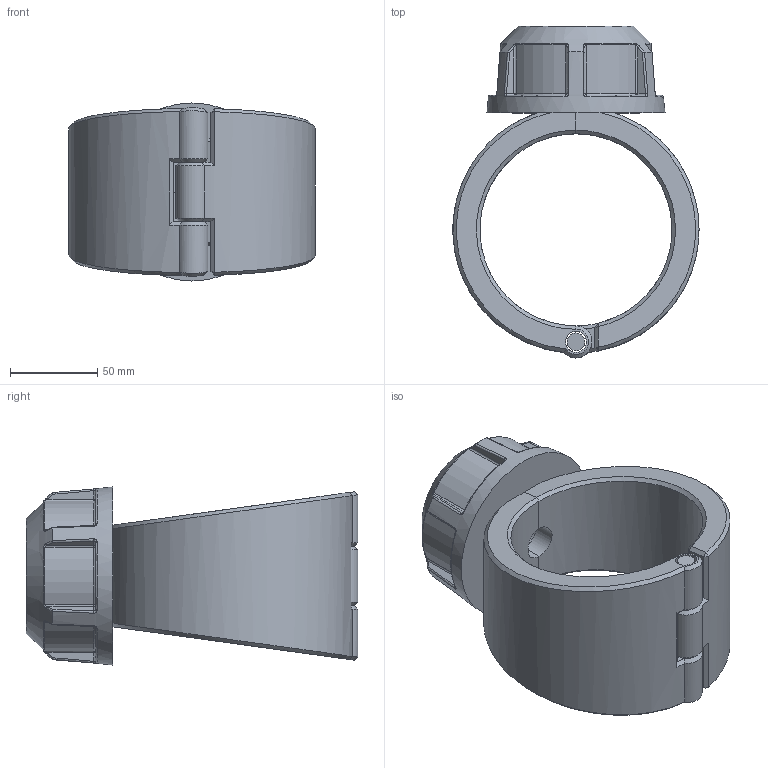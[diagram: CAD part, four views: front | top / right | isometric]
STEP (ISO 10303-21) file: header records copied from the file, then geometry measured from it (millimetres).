
FILE_DESCRIPTION(/* description */ ('Plassadle Threaded 110x1 1/4'''''),/* implementation_level */ '2;1');
FILE_NAME(/* name */ 'C:\Users\comp2\Dropbox\99-16-3568-Processing\Mechanical Fittings\16300\stp\163000110013.stp',/* time_stamp */ '2022-02-03T11:47:58+00:00',/* author */ ('comp2'),/* organization */ (''),/* preprocessor_version */ 'ST-DEVELOPER v17.2',/* originating_system */ 'Autodesk Inventor 2019',/* authorisation */ '');
FILE_SCHEMA (('AUTOMOTIVE_DESIGN { 1 0 10303 214 3 1 1 }'));
Length unit declared in the file: millimetre
Products named in the file (1): 163000110013
Bounding box: 140.96 x 190 x 102 mm (x, y, z)
Volume: 710807.7 mm3; surface area: 114839.7 mm2
Topology: 4 solids, 4 shells, 203 faces, 486 edges, 293 vertices
Faces by surface type: bspline 58, plane 53, cylinder 47, torus 18, cone 15, sphere 12
Full cylindrical faces by diameter (mm): 10.12 x1, 12.12 x3, 19.476 x1, 33.109 x1, 38.952 x1, 58.428 x1
Entity records: 8247 total; most frequent: CARTESIAN_POINT 3900, ORIENTED_EDGE 972, DIRECTION 781, EDGE_CURVE 486, AXIS2_PLACEMENT_3D 330, VERTEX_POINT 293, EDGE_LOOP 213, FACE_OUTER_BOUND 203
